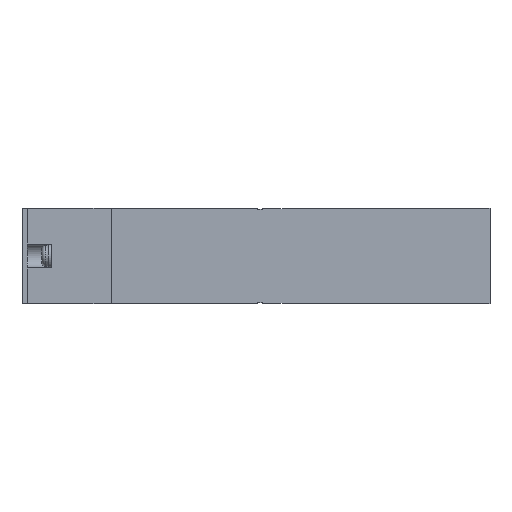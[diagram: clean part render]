
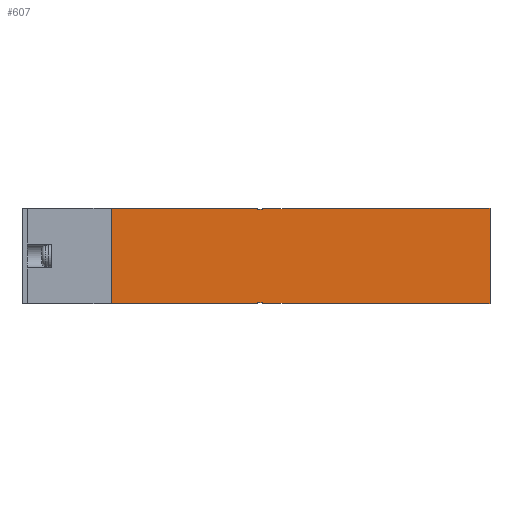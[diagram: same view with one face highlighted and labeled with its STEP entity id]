
A CAD part, front view. The second image highlights one B-rep face of the part: STEP entity #607.
In plain terms, the highlighted planar face has unit normal (0, -1, 0).
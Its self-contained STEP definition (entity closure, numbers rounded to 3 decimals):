
#607=ADVANCED_FACE('',(#1328),#1329,.F.);
#1328=FACE_OUTER_BOUND('',#2188,.T.);
#1329=PLANE('',#2189);
#2188=EDGE_LOOP('',(#4747,#4748,#4749,#4750,#4751,#4752,#4753,#4754,#4755,#4756,#4757,#4758,#4759,#4760,#4761,#4762,#4763,#4764,#4765,#4766,#4767,#4768,#4769,#4770));
#2189=AXIS2_PLACEMENT_3D('',#4771,#4772,#4773);
#4747=ORIENTED_EDGE('',*,*,#6411,.F.);
#4748=ORIENTED_EDGE('',*,*,#6345,.T.);
#4749=ORIENTED_EDGE('',*,*,#6385,.T.);
#4750=ORIENTED_EDGE('',*,*,#6412,.F.);
#4751=ORIENTED_EDGE('',*,*,#6413,.F.);
#4752=ORIENTED_EDGE('',*,*,#6314,.T.);
#4753=ORIENTED_EDGE('',*,*,#6414,.F.);
#4754=ORIENTED_EDGE('',*,*,#6415,.T.);
#4755=ORIENTED_EDGE('',*,*,#6416,.F.);
#4756=ORIENTED_EDGE('',*,*,#6417,.T.);
#4757=ORIENTED_EDGE('',*,*,#6418,.T.);
#4758=ORIENTED_EDGE('',*,*,#6419,.T.);
#4759=ORIENTED_EDGE('',*,*,#6420,.T.);
#4760=ORIENTED_EDGE('',*,*,#6380,.F.);
#4761=ORIENTED_EDGE('',*,*,#6421,.T.);
#4762=ORIENTED_EDGE('',*,*,#6422,.F.);
#4763=ORIENTED_EDGE('',*,*,#6328,.T.);
#4764=ORIENTED_EDGE('',*,*,#6342,.T.);
#4765=ORIENTED_EDGE('',*,*,#6423,.T.);
#4766=ORIENTED_EDGE('',*,*,#6424,.T.);
#4767=ORIENTED_EDGE('',*,*,#6299,.T.);
#4768=ORIENTED_EDGE('',*,*,#6425,.F.);
#4769=ORIENTED_EDGE('',*,*,#6426,.F.);
#4770=ORIENTED_EDGE('',*,*,#6317,.F.);
#4771=CARTESIAN_POINT('',(18.6,0.0,10.0));
#4772=DIRECTION('',(-0.0,1.0,0.0));
#4773=DIRECTION('',(1.0,0.0,0.0));
#6299=EDGE_CURVE('',#7755,#7768,#7770,.T.);
#6314=EDGE_CURVE('',#7799,#7797,#7800,.T.);
#6317=EDGE_CURVE('',#7802,#7805,#7806,.T.);
#6328=EDGE_CURVE('',#7819,#7824,#7826,.T.);
#6342=EDGE_CURVE('',#7824,#7851,#7853,.T.);
#6345=EDGE_CURVE('',#7849,#7856,#7858,.T.);
#6380=EDGE_CURVE('',#7921,#7923,#7924,.T.);
#6385=EDGE_CURVE('',#7856,#7930,#7932,.T.);
#6411=EDGE_CURVE('',#7849,#7802,#7977,.T.);
#6412=EDGE_CURVE('',#7978,#7930,#7979,.T.);
#6413=EDGE_CURVE('',#7799,#7978,#7980,.T.);
#6414=EDGE_CURVE('',#7981,#7797,#7982,.T.);
#6415=EDGE_CURVE('',#7981,#7983,#7984,.T.);
#6416=EDGE_CURVE('',#7985,#7983,#7986,.T.);
#6417=EDGE_CURVE('',#7985,#7987,#7988,.T.);
#6418=EDGE_CURVE('',#7987,#7989,#7990,.T.);
#6419=EDGE_CURVE('',#7989,#7991,#7992,.T.);
#6420=EDGE_CURVE('',#7991,#7923,#7993,.T.);
#6421=EDGE_CURVE('',#7921,#7994,#7995,.T.);
#6422=EDGE_CURVE('',#7819,#7994,#7996,.T.);
#6423=EDGE_CURVE('',#7851,#7997,#7998,.T.);
#6424=EDGE_CURVE('',#7997,#7755,#7999,.T.);
#6425=EDGE_CURVE('',#8000,#7768,#8001,.T.);
#6426=EDGE_CURVE('',#7805,#8000,#8002,.T.);
#7755=VERTEX_POINT('',#10100);
#7768=VERTEX_POINT('',#10119);
#7770=LINE('',#10122,#10123);
#7797=VERTEX_POINT('',#10185);
#7799=VERTEX_POINT('',#10188);
#7800=LINE('',#10189,#10190);
#7802=VERTEX_POINT('',#10193);
#7805=VERTEX_POINT('',#10197);
#7806=LINE('',#10198,#10199);
#7819=VERTEX_POINT('',#10218);
#7824=VERTEX_POINT('',#10225);
#7826=LINE('',#10228,#10229);
#7849=VERTEX_POINT('',#10263);
#7851=VERTEX_POINT('',#10266);
#7853=LINE('',#10269,#10270);
#7856=VERTEX_POINT('',#10274);
#7858=LINE('',#10277,#10278);
#7921=VERTEX_POINT('',#10372);
#7923=VERTEX_POINT('',#10375);
#7924=LINE('',#10376,#10377);
#7930=VERTEX_POINT('',#10386);
#7932=LINE('',#10389,#10390);
#7977=LINE('',#10459,#10460);
#7978=VERTEX_POINT('',#10461);
#7979=LINE('',#10462,#10463);
#7980=LINE('',#10464,#10465);
#7981=VERTEX_POINT('',#10466);
#7982=LINE('',#10467,#10468);
#7983=VERTEX_POINT('',#10469);
#7984=LINE('',#10470,#10471);
#7985=VERTEX_POINT('',#10472);
#7986=LINE('',#10473,#10474);
#7987=VERTEX_POINT('',#10475);
#7988=LINE('',#10476,#10477);
#7989=VERTEX_POINT('',#10478);
#7990=LINE('',#10479,#10480);
#7991=VERTEX_POINT('',#10481);
#7992=LINE('',#10482,#10483);
#7993=LINE('',#10484,#10485);
#7994=VERTEX_POINT('',#10486);
#7995=LINE('',#10487,#10488);
#7996=LINE('',#10489,#10490);
#7997=VERTEX_POINT('',#10491);
#7998=LINE('',#10492,#10493);
#7999=LINE('',#10494,#10495);
#8000=VERTEX_POINT('',#10496);
#8001=LINE('',#10497,#10498);
#8002=LINE('',#10499,#10500);
#10100=CARTESIAN_POINT('',(55.1,0.0,-10.0));
#10119=CARTESIAN_POINT('',(97.6,0.0,-10.0));
#10122=CARTESIAN_POINT('',(18.6,0.0,-10.0));
#10123=VECTOR('',#11832,1.0);
#10185=CARTESIAN_POINT('',(44.1,0.0,10.0));
#10188=CARTESIAN_POINT('',(44.1,0.0,9.9));
#10189=CARTESIAN_POINT('',(44.1,0.0,9.9));
#10190=VECTOR('',#11854,1.0);
#10193=CARTESIAN_POINT('',(55.1,0.0,9.9));
#10197=CARTESIAN_POINT('',(55.1,0.0,10.0));
#10198=CARTESIAN_POINT('',(55.1,0.0,9.9));
#10199=VECTOR('',#11857,1.0);
#10218=CARTESIAN_POINT('',(49.1,0.0,-9.8));
#10225=CARTESIAN_POINT('',(50.1,0.0,-9.8));
#10228=CARTESIAN_POINT('',(18.6,0.0,-9.8));
#10229=VECTOR('',#11870,1.0);
#10263=CARTESIAN_POINT('',(50.1,0.0,9.9));
#10266=CARTESIAN_POINT('',(50.1,0.0,-9.9));
#10269=CARTESIAN_POINT('',(50.1,0.0,10.0));
#10270=VECTOR('',#11884,1.0);
#10274=CARTESIAN_POINT('',(50.1,0.0,9.8));
#10277=CARTESIAN_POINT('',(50.1,0.0,10.0));
#10278=VECTOR('',#11887,1.0);
#10372=CARTESIAN_POINT('',(44.1,0.0,-9.9));
#10375=CARTESIAN_POINT('',(44.1,0.0,-10.0));
#10376=CARTESIAN_POINT('',(44.1,0.0,-9.9));
#10377=VECTOR('',#11926,1.0);
#10386=CARTESIAN_POINT('',(49.1,0.0,9.8));
#10389=CARTESIAN_POINT('',(18.6,0.0,9.8));
#10390=VECTOR('',#11931,1.0);
#10459=CARTESIAN_POINT('',(44.1,0.0,9.9));
#10460=VECTOR('',#11959,1.0);
#10461=CARTESIAN_POINT('',(49.1,0.0,9.9));
#10462=CARTESIAN_POINT('',(49.1,0.0,10.0));
#10463=VECTOR('',#11960,1.0);
#10464=CARTESIAN_POINT('',(44.1,0.0,9.9));
#10465=VECTOR('',#11961,1.0);
#10466=CARTESIAN_POINT('',(35.1,0.0,10.0));
#10467=CARTESIAN_POINT('',(18.6,0.0,10.0));
#10468=VECTOR('',#11962,1.0);
#10469=CARTESIAN_POINT('',(35.1,0.0,9.9));
#10470=CARTESIAN_POINT('',(35.1,0.0,10.1));
#10471=VECTOR('',#11963,1.0);
#10472=CARTESIAN_POINT('',(18.6,0.0,9.9));
#10473=CARTESIAN_POINT('',(18.6,0.0,9.9));
#10474=VECTOR('',#11964,1.0);
#10475=CARTESIAN_POINT('',(18.6,0.0,-9.9));
#10476=CARTESIAN_POINT('',(18.6,0.0,10.0));
#10477=VECTOR('',#11965,1.0);
#10478=CARTESIAN_POINT('',(35.1,0.0,-9.9));
#10479=CARTESIAN_POINT('',(18.6,0.0,-9.9));
#10480=VECTOR('',#11966,1.0);
#10481=CARTESIAN_POINT('',(35.1,0.0,-10.0));
#10482=CARTESIAN_POINT('',(35.1,0.0,-9.9));
#10483=VECTOR('',#11967,1.0);
#10484=CARTESIAN_POINT('',(18.6,0.0,-10.0));
#10485=VECTOR('',#11968,1.0);
#10486=CARTESIAN_POINT('',(49.1,0.0,-9.9));
#10487=CARTESIAN_POINT('',(44.1,0.0,-9.9));
#10488=VECTOR('',#11969,1.0);
#10489=CARTESIAN_POINT('',(49.1,0.0,10.0));
#10490=VECTOR('',#11970,1.0);
#10491=CARTESIAN_POINT('',(55.1,0.0,-9.9));
#10492=CARTESIAN_POINT('',(44.1,0.0,-9.9));
#10493=VECTOR('',#11971,1.0);
#10494=CARTESIAN_POINT('',(55.1,0.0,-9.9));
#10495=VECTOR('',#11972,1.0);
#10496=CARTESIAN_POINT('',(97.6,0.0,10.0));
#10497=CARTESIAN_POINT('',(97.6,0.0,10.0));
#10498=VECTOR('',#11973,1.0);
#10499=CARTESIAN_POINT('',(18.6,0.0,10.0));
#10500=VECTOR('',#11974,1.0);
#11832=DIRECTION('',(1.0,0.0,0.0));
#11854=DIRECTION('',(0.0,0.0,1.0));
#11857=DIRECTION('',(0.0,0.0,1.0));
#11870=DIRECTION('',(1.0,0.0,0.0));
#11884=DIRECTION('',(0.0,0.0,-1.0));
#11887=DIRECTION('',(0.0,0.0,-1.0));
#11926=DIRECTION('',(0.0,0.0,-1.0));
#11931=DIRECTION('',(-1.0,0.0,0.0));
#11959=DIRECTION('',(1.0,0.0,0.0));
#11960=DIRECTION('',(0.0,0.0,-1.0));
#11961=DIRECTION('',(1.0,0.0,0.0));
#11962=DIRECTION('',(1.0,0.0,0.0));
#11963=DIRECTION('',(0.0,0.0,-1.0));
#11964=DIRECTION('',(1.0,0.0,0.0));
#11965=DIRECTION('',(0.0,0.0,-1.0));
#11966=DIRECTION('',(1.0,0.0,0.0));
#11967=DIRECTION('',(0.0,0.0,-1.0));
#11968=DIRECTION('',(1.0,0.0,0.0));
#11969=DIRECTION('',(1.0,0.0,0.0));
#11970=DIRECTION('',(0.0,0.0,-1.0));
#11971=DIRECTION('',(1.0,0.0,0.0));
#11972=DIRECTION('',(0.0,0.0,-1.0));
#11973=DIRECTION('',(0.0,0.0,-1.0));
#11974=DIRECTION('',(1.0,0.0,0.0));
